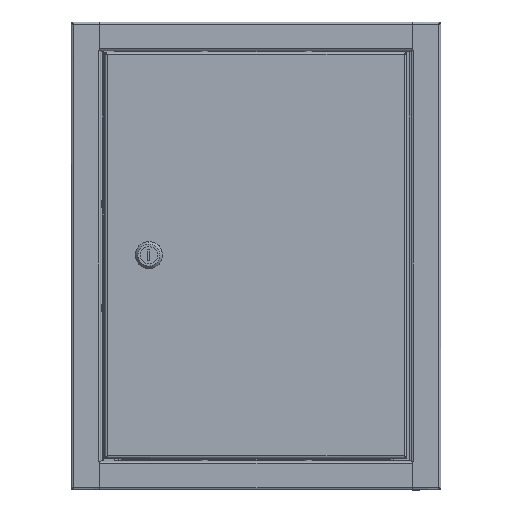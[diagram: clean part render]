
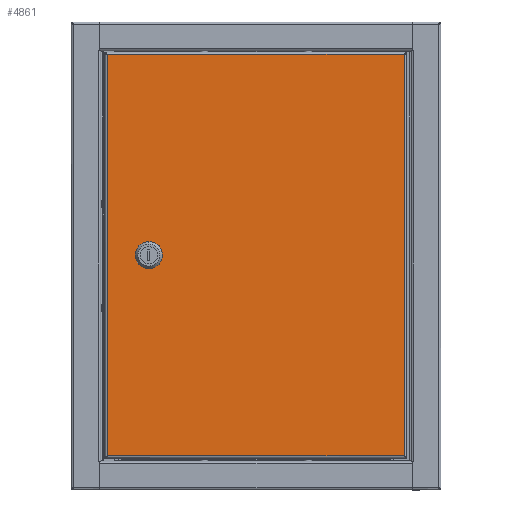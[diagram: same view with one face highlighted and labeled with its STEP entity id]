
A CAD part, top view. The second image highlights one B-rep face of the part: STEP entity #4861.
In plain terms, the highlighted planar face has unit normal (0, 0, 1).
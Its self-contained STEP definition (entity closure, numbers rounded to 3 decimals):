
#56 = VECTOR ( 'NONE', #13586, 1000. ) ;
#80 = LINE ( 'NONE', #13277, #12773 ) ;
#288 = ORIENTED_EDGE ( 'NONE', *, *, #7609, .F. ) ;
#411 = ORIENTED_EDGE ( 'NONE', *, *, #4987, .F. ) ;
#517 = DIRECTION ( 'NONE',  ( -1., 0., 0. ) ) ;
#545 = CARTESIAN_POINT ( 'NONE',  ( -6.9, -4.1, 576.901 ) ) ;
#913 = VERTEX_POINT ( 'NONE', #2593 ) ;
#1709 = VECTOR ( 'NONE', #517, 1000. ) ;
#2025 = CARTESIAN_POINT ( 'NONE',  ( -218.9, -169.6, 576.901 ) ) ;
#2204 = DIRECTION ( 'NONE',  ( -1., 0., 0. ) ) ;
#2484 = LINE ( 'NONE', #9165, #1709 ) ;
#2500 = ORIENTED_EDGE ( 'NONE', *, *, #14915, .F. ) ;
#2593 = CARTESIAN_POINT ( 'NONE',  ( -236.9, -186., 576.901 ) ) ;
#2691 = DIRECTION ( 'NONE',  ( 1., 0., 0. ) ) ;
#2983 = CARTESIAN_POINT ( 'NONE',  ( -5.7, -4.1, 576.901 ) ) ;
#2996 = VECTOR ( 'NONE', #2204, 1000. ) ;
#3064 = CARTESIAN_POINT ( 'NONE',  ( -263.9, -4.1, 576.901 ) ) ;
#3329 = VERTEX_POINT ( 'NONE', #12948 ) ;
#3691 = LINE ( 'NONE', #14599, #13257 ) ;
#4159 = CARTESIAN_POINT ( 'NONE',  ( -263.9, -351.5, 576.901 ) ) ;
#4391 = DIRECTION ( 'NONE',  ( 0., 1., 0. ) ) ;
#4446 = CARTESIAN_POINT ( 'NONE',  ( -5.7, -353.5, 576.901 ) ) ;
#4861 = ADVANCED_FACE ( 'NONE', ( #5845, #14072 ), #11952, .T. ) ;
#4987 = EDGE_CURVE ( 'NONE', #7396, #6183, #13487, .T. ) ;
#5001 = ORIENTED_EDGE ( 'NONE', *, *, #12586, .F. ) ;
#5029 = CARTESIAN_POINT ( 'NONE',  ( -218.9, -186., 576.901 ) ) ;
#5257 = DIRECTION ( 'NONE',  ( -1., 0., 0. ) ) ;
#5279 = VERTEX_POINT ( 'NONE', #545 ) ;
#5352 = LINE ( 'NONE', #5029, #7674 ) ;
#5694 = DIRECTION ( 'NONE',  ( 0., 0., 1. ) ) ;
#5845 = FACE_OUTER_BOUND ( 'NONE', #6840, .T. ) ;
#5974 = LINE ( 'NONE', #2983, #14400 ) ;
#6183 = VERTEX_POINT ( 'NONE', #9723 ) ;
#6671 = CARTESIAN_POINT ( 'NONE',  ( -6.9, -351.5, 576.901 ) ) ;
#6840 = EDGE_LOOP ( 'NONE', ( #8620, #9858, #2500, #10495 ) ) ;
#7030 = DIRECTION ( 'NONE',  ( 0., -1., 0. ) ) ;
#7243 = DIRECTION ( 'NONE',  ( 0., -1., 0. ) ) ;
#7396 = VERTEX_POINT ( 'NONE', #13800 ) ;
#7609 = EDGE_CURVE ( 'NONE', #6183, #3329, #14285, .T. ) ;
#7633 = EDGE_CURVE ( 'NONE', #3329, #913, #80, .T. ) ;
#7674 = VECTOR ( 'NONE', #2691, 1000. ) ;
#8061 = LINE ( 'NONE', #13967, #12870 ) ;
#8620 = ORIENTED_EDGE ( 'NONE', *, *, #13711, .T. ) ;
#8702 = VERTEX_POINT ( 'NONE', #4159 ) ;
#8771 = VERTEX_POINT ( 'NONE', #3064 ) ;
#9165 = CARTESIAN_POINT ( 'NONE',  ( -5.7, -351.5, 576.901 ) ) ;
#9723 = CARTESIAN_POINT ( 'NONE',  ( -218.9, -169.6, 576.901 ) ) ;
#9805 = EDGE_LOOP ( 'NONE', ( #288, #411, #5001, #11727 ) ) ;
#9858 = ORIENTED_EDGE ( 'NONE', *, *, #11005, .T. ) ;
#10495 = ORIENTED_EDGE ( 'NONE', *, *, #11493, .T. ) ;
#11005 = EDGE_CURVE ( 'NONE', #8771, #8702, #3691, .T. ) ;
#11189 = CARTESIAN_POINT ( 'NONE',  ( -218.9, -169.6, 576.901 ) ) ;
#11493 = EDGE_CURVE ( 'NONE', #12980, #5279, #8061, .T. ) ;
#11727 = ORIENTED_EDGE ( 'NONE', *, *, #7633, .F. ) ;
#11952 = PLANE ( 'NONE',  #13461 ) ;
#12586 = EDGE_CURVE ( 'NONE', #913, #7396, #5352, .T. ) ;
#12773 = VECTOR ( 'NONE', #7030, 1000. ) ;
#12870 = VECTOR ( 'NONE', #14081, 1000. ) ;
#12948 = CARTESIAN_POINT ( 'NONE',  ( -236.9, -169.6, 576.901 ) ) ;
#12980 = VERTEX_POINT ( 'NONE', #6671 ) ;
#13257 = VECTOR ( 'NONE', #7243, 1000. ) ;
#13277 = CARTESIAN_POINT ( 'NONE',  ( -236.9, -169.6, 576.901 ) ) ;
#13461 = AXIS2_PLACEMENT_3D ( 'NONE', #4446, #5694, #4391 ) ;
#13487 = LINE ( 'NONE', #11189, #56 ) ;
#13586 = DIRECTION ( 'NONE',  ( 0., 1., 0. ) ) ;
#13711 = EDGE_CURVE ( 'NONE', #5279, #8771, #5974, .T. ) ;
#13800 = CARTESIAN_POINT ( 'NONE',  ( -218.9, -186., 576.901 ) ) ;
#13967 = CARTESIAN_POINT ( 'NONE',  ( -6.9, -351.5, 576.901 ) ) ;
#14072 = FACE_BOUND ( 'NONE', #9805, .T. ) ;
#14081 = DIRECTION ( 'NONE',  ( 0., 1., 0. ) ) ;
#14285 = LINE ( 'NONE', #2025, #2996 ) ;
#14400 = VECTOR ( 'NONE', #5257, 1000. ) ;
#14599 = CARTESIAN_POINT ( 'NONE',  ( -263.9, -4.1, 576.901 ) ) ;
#14915 = EDGE_CURVE ( 'NONE', #12980, #8702, #2484, .T. ) ;
